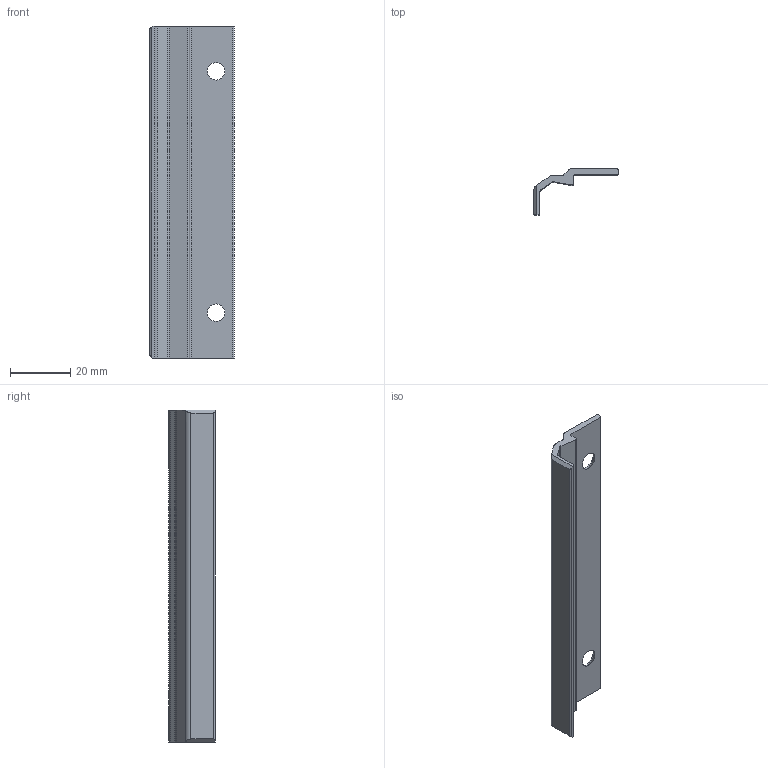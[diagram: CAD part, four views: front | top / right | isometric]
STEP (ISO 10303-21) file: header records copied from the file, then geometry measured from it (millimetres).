
FILE_DESCRIPTION (( 'STEP AP214' ), '1' );
FILE_NAME ('F3 Bottom Pivot Fixing Plate - Soft Cover.STEP', '2024-07-05T04:02:58', ( '' ), ( '' ), 'SwSTEP 2.0', 'SolidWorks 2023', '' );
FILE_SCHEMA (( 'AUTOMOTIVE_DESIGN' ));
Length unit declared in the file: millimetre
Products named in the file (1): F3 Bottom Pivot Fixing Plate - Soft Cover
Bounding box: 28 x 15.3 x 110 mm (x, y, z)
Volume: 8892.3 mm3; surface area: 8907 mm2
Topology: 1 solids, 1 shells, 36 faces, 98 edges, 64 vertices
Faces by surface type: cylinder 16, plane 16, cone 4
Entity records: 1173 total; most frequent: CARTESIAN_POINT 211, DIRECTION 200, ORIENTED_EDGE 196, EDGE_CURVE 98, AXIS2_PLACEMENT_3D 69, VERTEX_POINT 64, VECTOR 62, LINE 62
